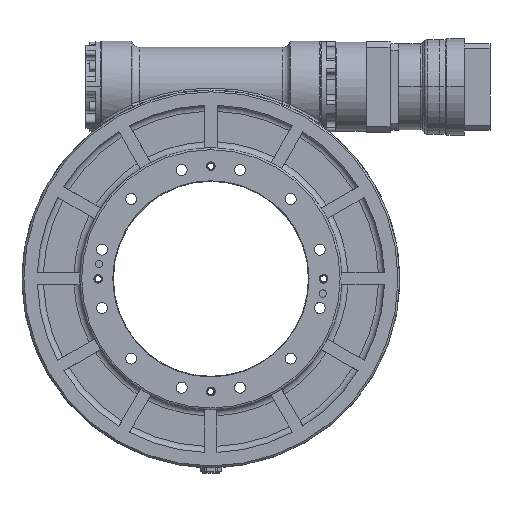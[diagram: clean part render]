
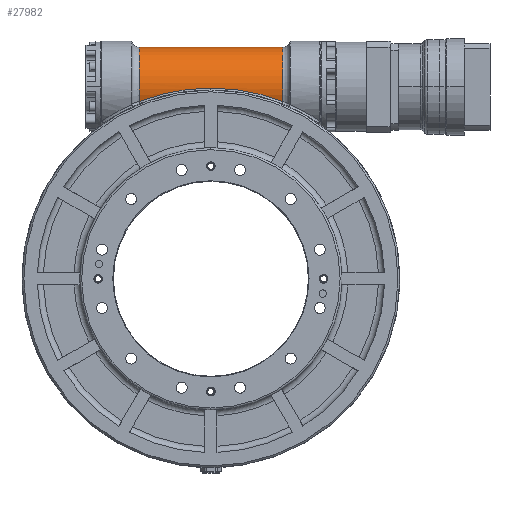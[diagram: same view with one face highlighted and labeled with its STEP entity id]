
A CAD part, front view. The second image highlights one B-rep face of the part: STEP entity #27982.
In plain terms, the highlighted cylindrical face has radius 65 mm (diameter 130 mm), a partial arc.
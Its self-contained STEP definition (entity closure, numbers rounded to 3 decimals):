
#108 = VECTOR ( 'NONE', #14494, 1000. ) ;
#2216 = CARTESIAN_POINT ( 'NONE',  ( -97.572, -69.941, 973.09 ) ) ;
#2336 = CARTESIAN_POINT ( 'NONE',  ( 30.151, -65.419, 951.108 ) ) ;
#2445 = CARTESIAN_POINT ( 'NONE',  ( 11.259, -67.678, 957.813 ) ) ;
#2564 = CARTESIAN_POINT ( 'NONE',  ( -17.712, -69.292, 965.574 ) ) ;
#2940 = CARTESIAN_POINT ( 'NONE',  ( -195.965, -66.716, 954.627 ) ) ;
#4359 = DIRECTION ( 'NONE',  ( -1., 0., 0. ) ) ;
#4889 = FACE_OUTER_BOUND ( 'NONE', #19625, .T. ) ;
#4978 = DIRECTION ( 'NONE',  ( 0., 0., 1. ) ) ;
#5002 = CARTESIAN_POINT ( 'NONE',  ( -47.371, -69.827, 970.646 ) ) ;
#5200 = EDGE_CURVE ( 'NONE', #24906, #33446, #7068, .T. ) ;
#5539 = EDGE_CURVE ( 'NONE', #33446, #32902, #12144, .T. ) ;
#5754 = AXIS2_PLACEMENT_3D ( 'NONE', #9851, #4359, #15361 ) ;
#7068 = B_SPLINE_CURVE_WITH_KNOTS ( 'NONE', 3,
 ( #11286, #15646, #2940, #25223, #9201, #32749, #24616, #35772, #36011, #16136, #35546, #8177, #24982, #18928, #13553, #21702, #2216, #16364, #13310, #7946, #5002, #22065, #24503, #10736, #2564, #33224, #10986, #27644, #2445, #19293, #27411, #2336 ),
 .UNSPECIFIED., .F., .F.,
 ( 4, 2, 2, 2, 2, 2, 2, 2, 2, 2, 2, 2, 2, 2, 2, 4 ),
 ( 0., 0.015, 0.03, 0.045, 0.053, 0.06, 0.075, 0.091, 0.121, 0.151, 0.166, 0.181, 0.196, 0.211, 0.226, 0.242 ),
 .UNSPECIFIED. ) ;
#7946 = CARTESIAN_POINT ( 'NONE',  ( -52.381, -69.861, 971.227 ) ) ;
#8043 = AXIS2_PLACEMENT_3D ( 'NONE', #21684, #15618, #4978 ) ;
#8177 = CARTESIAN_POINT ( 'NONE',  ( -142.442, -69.65, 968.5 ) ) ;
#9201 = CARTESIAN_POINT ( 'NONE',  ( -181.661, -68.06, 959.3 ) ) ;
#9257 = LINE ( 'NONE', #9361, #108 ) ;
#9361 = CARTESIAN_POINT ( 'NONE',  ( 42.398, -4.969, 1040. ) ) ;
#9851 = CARTESIAN_POINT ( 'NONE',  ( 30.151, -4.969, 975. ) ) ;
#10443 = DIRECTION ( 'NONE',  ( 0., 0., 1. ) ) ;
#10736 = CARTESIAN_POINT ( 'NONE',  ( -22.608, -69.431, 966.606 ) ) ;
#10986 = CARTESIAN_POINT ( 'NONE',  ( -3.138, -68.677, 962.029 ) ) ;
#11286 = CARTESIAN_POINT ( 'NONE',  ( -205.355, -65.419, 951.108 ) ) ;
#11552 = ORIENTED_EDGE ( 'NONE', *, *, #28161, .T. ) ;
#12144 = CIRCLE ( 'NONE', #5754, 65. ) ;
#12182 = ORIENTED_EDGE ( 'NONE', *, *, #22993, .T. ) ;
#13285 = AXIS2_PLACEMENT_3D ( 'NONE', #23964, #35374, #10443 ) ;
#13310 = CARTESIAN_POINT ( 'NONE',  ( -67.483, -69.932, 972.626 ) ) ;
#13553 = CARTESIAN_POINT ( 'NONE',  ( -122.536, -69.863, 971.257 ) ) ;
#14330 = ORIENTED_EDGE ( 'NONE', *, *, #5200, .T. ) ;
#14494 = DIRECTION ( 'NONE',  ( -1., 0., 0. ) ) ;
#15361 = DIRECTION ( 'NONE',  ( 0., 0., -1. ) ) ;
#15618 = DIRECTION ( 'NONE',  ( -1., 0., 0. ) ) ;
#15646 = CARTESIAN_POINT ( 'NONE',  ( -200.68, -66.136, 952.923 ) ) ;
#16136 = CARTESIAN_POINT ( 'NONE',  ( -152.371, -69.429, 966.622 ) ) ;
#16364 = CARTESIAN_POINT ( 'NONE',  ( -77.528, -69.941, 973.087 ) ) ;
#18928 = CARTESIAN_POINT ( 'NONE',  ( -127.518, -69.829, 970.684 ) ) ;
#19293 = CARTESIAN_POINT ( 'NONE',  ( 20.753, -66.717, 954.63 ) ) ;
#19625 = EDGE_LOOP ( 'NONE', ( #27040, #11552, #12182, #14330 ) ) ;
#20551 = CIRCLE ( 'NONE', #13285, 65. ) ;
#21684 = CARTESIAN_POINT ( 'NONE',  ( 42.398, -4.969, 975. ) ) ;
#21702 = CARTESIAN_POINT ( 'NONE',  ( -107.571, -69.932, 972.632 ) ) ;
#22065 = CARTESIAN_POINT ( 'NONE',  ( -37.41, -69.718, 969.256 ) ) ;
#22750 = CYLINDRICAL_SURFACE ( 'NONE', #8043, 65. ) ;
#22993 = EDGE_CURVE ( 'NONE', #31470, #24906, #20551, .T. ) ;
#23779 = CARTESIAN_POINT ( 'NONE',  ( -205.355, -65.419, 951.108 ) ) ;
#23964 = CARTESIAN_POINT ( 'NONE',  ( -205.355, -4.969, 975. ) ) ;
#24503 = CARTESIAN_POINT ( 'NONE',  ( -32.458, -69.644, 968.447 ) ) ;
#24616 = CARTESIAN_POINT ( 'NONE',  ( -167.129, -68.92, 963.31 ) ) ;
#24768 = CARTESIAN_POINT ( 'NONE',  ( -205.355, -4.969, 1040. ) ) ;
#24906 = VERTEX_POINT ( 'NONE', #23779 ) ;
#24982 = CARTESIAN_POINT ( 'NONE',  ( -137.472, -69.723, 969.305 ) ) ;
#25223 = CARTESIAN_POINT ( 'NONE',  ( -186.455, -67.678, 957.816 ) ) ;
#26009 = CARTESIAN_POINT ( 'NONE',  ( 30.151, -65.419, 951.108 ) ) ;
#27040 = ORIENTED_EDGE ( 'NONE', *, *, #5539, .T. ) ;
#27411 = CARTESIAN_POINT ( 'NONE',  ( 25.469, -66.137, 952.926 ) ) ;
#27644 = CARTESIAN_POINT ( 'NONE',  ( 6.48, -68.058, 959.293 ) ) ;
#27982 = ADVANCED_FACE ( 'NONE', ( #4889 ), #22750, .T. ) ;
#28161 = EDGE_CURVE ( 'NONE', #32902, #31470, #9257, .T. ) ;
#31470 = VERTEX_POINT ( 'NONE', #24768 ) ;
#32749 = CARTESIAN_POINT ( 'NONE',  ( -171.998, -68.681, 962.047 ) ) ;
#32902 = VERTEX_POINT ( 'NONE', #34549 ) ;
#33224 = CARTESIAN_POINT ( 'NONE',  ( -7.977, -68.915, 963.285 ) ) ;
#33446 = VERTEX_POINT ( 'NONE', #26009 ) ;
#34549 = CARTESIAN_POINT ( 'NONE',  ( 30.151, -4.969, 1040. ) ) ;
#35374 = DIRECTION ( 'NONE',  ( 1., 0., 0. ) ) ;
#35546 = CARTESIAN_POINT ( 'NONE',  ( -149.89, -69.49, 967.114 ) ) ;
#35772 = CARTESIAN_POINT ( 'NONE',  ( -159.773, -69.203, 965.036 ) ) ;
#36011 = CARTESIAN_POINT ( 'NONE',  ( -157.311, -69.285, 965.584 ) ) ;
